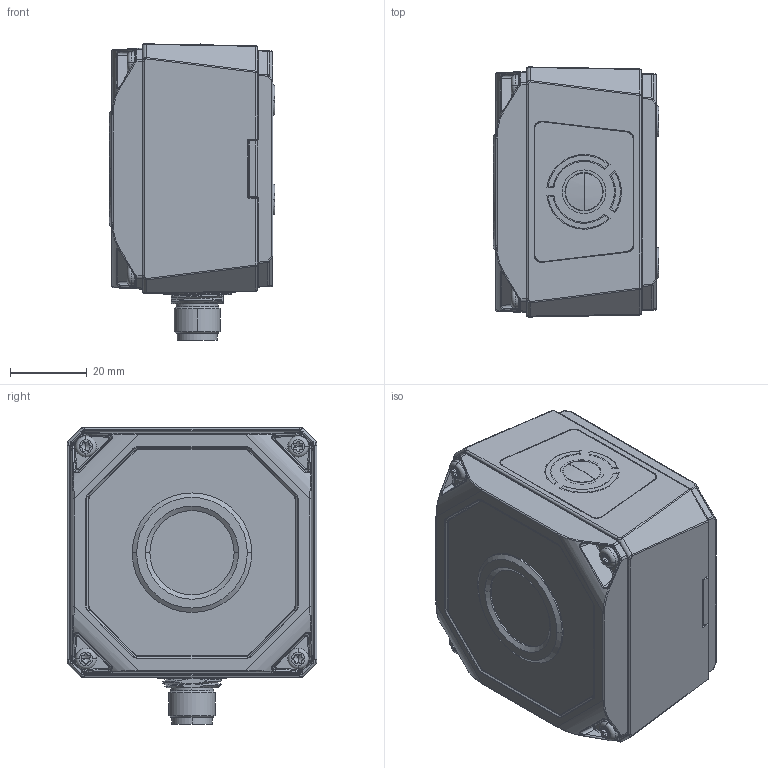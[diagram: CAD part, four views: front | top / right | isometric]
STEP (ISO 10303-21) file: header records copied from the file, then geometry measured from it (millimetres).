
FILE_DESCRIPTION((''),'2;1');
FILE_NAME('V020-ALL-ASM_ASM','2020-08-27T10:05:50',('fangguihua'),(''),'CREO PARAMETRIC BY PTC INC, 2017260','CREO PARAMETRIC BY PTC INC, 2017260','');
FILE_SCHEMA(('CONFIG_CONTROL_DESIGN'));
Products named in the file (18): L102-M12-Z17A23_ALL; PCB-MV-23116_ASM; STACKING-PCB_ASM; DE-13-000310; DE-13-000311_ASM; DE-12-000307; DE-12-000271; DE-19-000121; DE-12-000272_ASM; V020-CASE_DOWN-ASM_ASM; DE-12-000139; DE-14-001099; DE-18-000004; DE-20-000116_ASM; DE-20-000115_ASM; V020-CASE-ASM_ASM; SC-PM3X7_5T10-L4-SUS304-BZN; V020-ALL-ASM_ASM
Assembly tree (21 placements, depth 5):
  V020-ALL-ASM_ASM
    STACKING-PCB_ASM
      PCB-MV-23116_ASM
        L102-M12-Z17A23_ALL
    V020-CASE-ASM_ASM
      V020-CASE_DOWN-ASM_ASM
        DE-13-000311_ASM
          DE-13-000310
        DE-12-000307  x2
        DE-12-000272_ASM
          DE-12-000271
          DE-19-000121
      DE-20-000115_ASM
        DE-12-000139
        DE-20-000116_ASM
          DE-14-001099
          DE-18-000004
    SC-PM3X7_5T10-L4-SUS304-BZN  x4
Bounding box: 43.2 x 65.18 x 77.44 mm (x, y, z)
Volume: 141899.3 mm3; surface area: 43671.1 mm2
Topology: 32 solids, 56 shells, 3032 faces, 6957 edges, 4121 vertices
Faces by surface type: cylinder 1175, plane 638, bspline 548, torus 228, cone 227, sphere 186, extrusion 30
Entity records: 110499 total; most frequent: CARTESIAN_POINT 49488, ORIENTED_EDGE 12720, DIRECTION 12612, EDGE_CURVE 6405, AXIS2_PLACEMENT_3D 5118, VERTEX_POINT 3792, EDGE_LOOP 2999, FACE_OUTER_BOUND 2807
